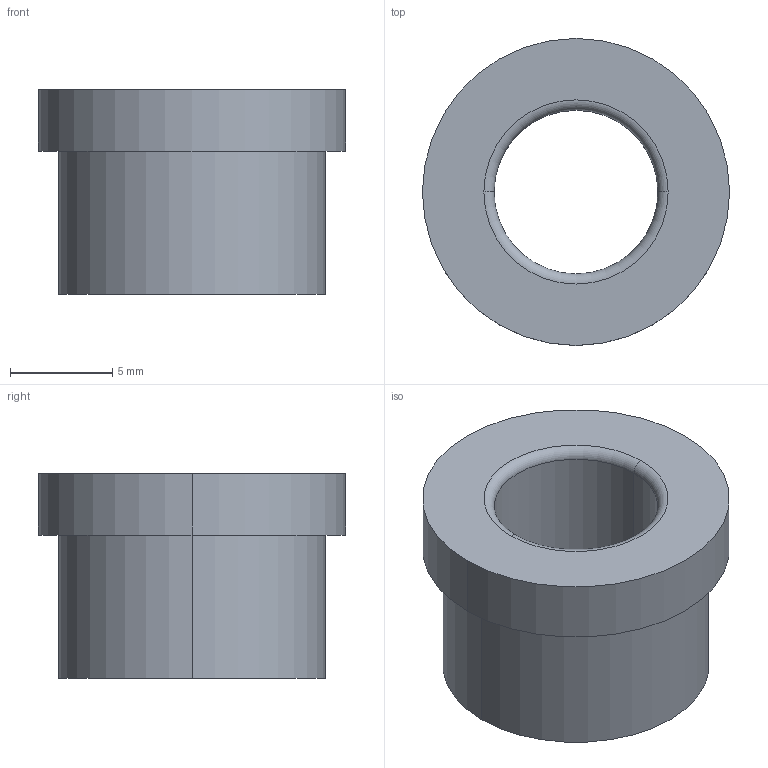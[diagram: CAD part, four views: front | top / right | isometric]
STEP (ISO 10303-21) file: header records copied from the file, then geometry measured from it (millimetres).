
FILE_DESCRIPTION(/* description */ (''),/* implementation_level */ '2;1');
FILE_NAME(/* name */ '3d_sghz8-10_00306_r00.stp',/* time_stamp */ '2011-01-10T14:11:10+09:00',/* author */ ('MISUMI'),/* organization */ (''),/* preprocessor_version */ 'ST-DEVELOPER v11',/* originating_system */ 'UGS - NX 5.0',/* authorisation */ '');
FILE_SCHEMA (('CONFIG_CONTROL_DESIGN'));
Length unit declared in the file: millimetre
Products named in the file (1): 3d_sghz8-10_00306_r00
Bounding box: 15 x 15 x 10 mm (x, y, z)
Volume: 953.8 mm3; surface area: 920.9 mm2
Topology: 1 solids, 1 shells, 13 faces, 26 edges, 16 vertices
Faces by surface type: cylinder 6, torus 4, plane 3
Entity records: 438 total; most frequent: DIRECTION 74, CARTESIAN_POINT 56, ORIENTED_EDGE 52, AXIS2_PLACEMENT_3D 34, EDGE_CURVE 26, CIRCLE 20, EDGE_LOOP 16, VERTEX_POINT 16
